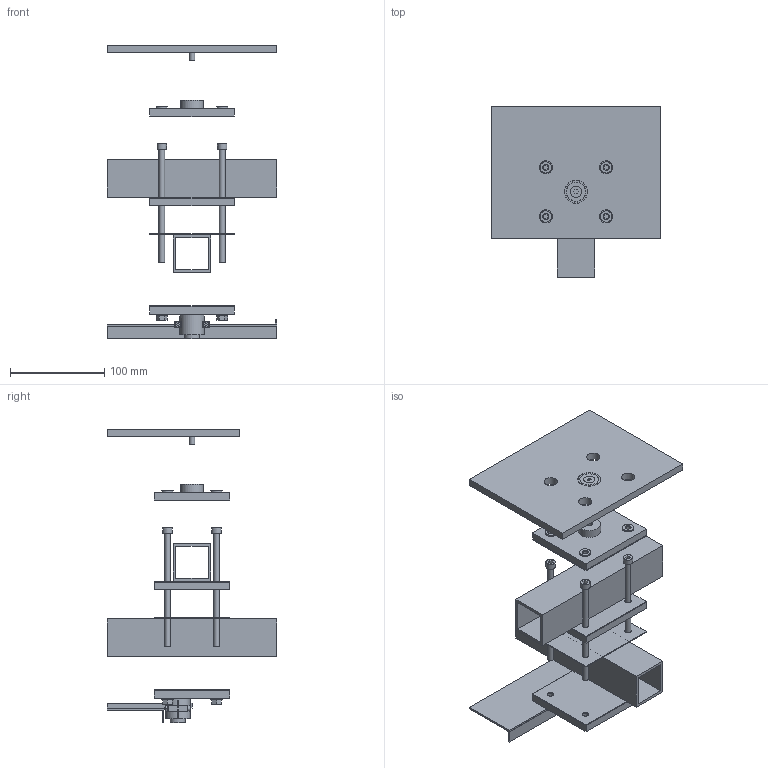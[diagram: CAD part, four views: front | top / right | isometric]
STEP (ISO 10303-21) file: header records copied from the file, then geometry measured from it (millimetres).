
FILE_DESCRIPTION(('FreeCAD Model'),'2;1');
FILE_NAME('Open CASCADE Shape Model','2026-10-29T17:57:10',('FreeCAD'),( 'FreeCAD'),'Open CASCADE STEP processor 7.8','FreeCAD','Unknown');
FILE_SCHEMA(('AUTOMOTIVE_DESIGN { 1 0 10303 214 1 1 1 1 }'));
Length unit declared in the file: millimetre
Products named in the file (1): Open CASCADE STEP translator 7.8 2
Bounding box: 180 x 180 x 311 mm (x, y, z)
Volume: 614139.6 mm3; surface area: 333978.3 mm2
Topology: 45 solids, 45 shells, 381 faces, 812 edges, 541 vertices
Faces by surface type: plane 284, cylinder 95, cone 2
Full cylindrical faces by diameter (mm): 3 x4, 3.2 x4, 3.4 x4, 5.5 x2, 6 x10, 6.4 x8, 6.6 x29, 7 x4, 8 x2, 10 x5, 12 x8, 14 x4, 16 x3, 16.6 x2, 20 x1, 20.5 x1, 24 x2, 24.5 x1, 26 x1
Entity records: 10409 total; most frequent: DIRECTION 1785, CARTESIAN_POINT 1735, ORIENTED_EDGE 1624, EDGE_CURVE 812, LINE 603, VECTOR 603, AXIS2_PLACEMENT_3D 591, VERTEX_POINT 541
